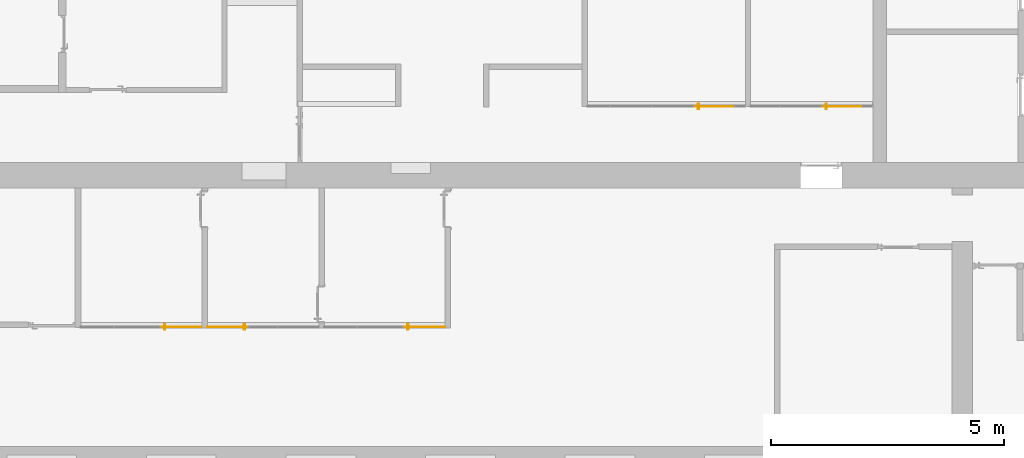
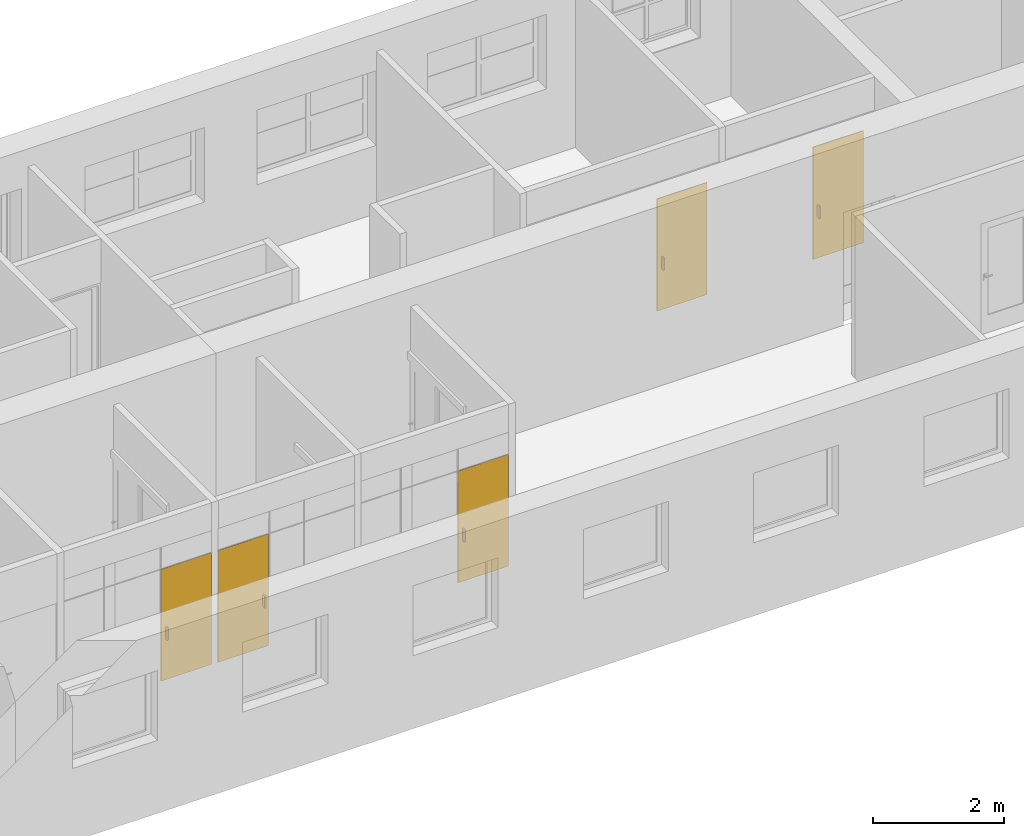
# One storey, part 43 of 49: 5 doors, 5 elements without a shape of their own.
"""IFC2X3 building model written with IfcOpenShell, lengths in millimetres."""

from ifc_helpers import new_model, entity, si_unit, converted_unit, derived_unit, direction, frame, frame_2d, origin, origin_2d_with_axis, place, context, subcontext, project, spatial, rectangle, extrude, source, transform, mapped, material, material_list, type_object, type_shapes, element, aggregate, save


model = new_model("IFC2X3")

# Units and contexts
model_context = context("Model", 3, precision=0.01, world=origin(), true_north=direction((6.12303176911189e-17, 1.0)))
body_context = subcontext(model_context, "Body", "Model", "MODEL_VIEW")
ifc_project = project(units=[si_unit("LENGTHUNIT", "METRE", prefix="MILLI"), si_unit("AREAUNIT", "SQUARE_METRE"), si_unit("VOLUMEUNIT", "CUBIC_METRE"), converted_unit("PLANEANGLEUNIT", "DEGREE", entity("IfcRatioMeasure", 0.0174532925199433), si_unit("PLANEANGLEUNIT", "RADIAN"), dimensions=[0, 0, 0, 0, 0, 0, 0]), si_unit("MASSUNIT", "GRAM", prefix="KILO"), derived_unit("MASSDENSITYUNIT", [(si_unit("MASSUNIT", "GRAM", prefix="KILO"), 1), (si_unit("LENGTHUNIT", "METRE"), -3)]), si_unit("TIMEUNIT", "SECOND"), si_unit("FREQUENCYUNIT", "HERTZ"), si_unit("THERMODYNAMICTEMPERATUREUNIT", "DEGREE_CELSIUS"), derived_unit("THERMALTRANSMITTANCEUNIT", [(si_unit("MASSUNIT", "GRAM", prefix="KILO"), 1), (si_unit("THERMODYNAMICTEMPERATUREUNIT", "KELVIN"), -1), (si_unit("TIMEUNIT", "SECOND"), -3)]), derived_unit("VOLUMETRICFLOWRATEUNIT", [(si_unit("LENGTHUNIT", "METRE"), 3), (si_unit("TIMEUNIT", "SECOND"), -1)]), si_unit("ELECTRICCURRENTUNIT", "AMPERE"), si_unit("ELECTRICVOLTAGEUNIT", "VOLT"), si_unit("POWERUNIT", "WATT"), si_unit("FORCEUNIT", "NEWTON", prefix="KILO"), si_unit("ILLUMINANCEUNIT", "LUX"), si_unit("LUMINOUSFLUXUNIT", "LUMEN"), si_unit("LUMINOUSINTENSITYUNIT", "CANDELA"), derived_unit("USERDEFINED", [(si_unit("MASSUNIT", "GRAM", prefix="KILO"), -1), (si_unit("LENGTHUNIT", "METRE"), -2), (si_unit("TIMEUNIT", "SECOND"), 3), (si_unit("LUMINOUSFLUXUNIT", "LUMEN"), 1)]), derived_unit("LINEARVELOCITYUNIT", [(si_unit("LENGTHUNIT", "METRE"), 1), (si_unit("TIMEUNIT", "SECOND"), -1)]), si_unit("PRESSUREUNIT", "PASCAL"), derived_unit("USERDEFINED", [(si_unit("LENGTHUNIT", "METRE"), -2), (si_unit("MASSUNIT", "GRAM", prefix="KILO"), 1), (si_unit("TIMEUNIT", "SECOND"), -2)])], contexts=[model_context])

# Site, building, storey
site_placement = place(None, frame((-151.875543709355, 2715.0, 0.0)))
site = spatial("IfcSite", under=ifc_project, at=site_placement, Name="Surface", CompositionType="ELEMENT")
building_placement = place(site_placement, origin())
building = spatial("IfcBuilding", under=site, at=building_placement, CompositionType="ELEMENT")
storey_placement = place(building_placement, origin())
storey = spatial("IfcBuildingStorey", under=building, at=storey_placement, Name="1 korrus", CompositionType="ELEMENT", Elevation=3.0969999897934e-10)

# Curtain wall, door
curtain_wall_type_1 = type_object("IfcCurtainWallType", Name="Curtain Wall:Klaassein KLS-01", PredefinedType="NOTDEFINED")
curtain_wall_1_placement = place(storey_placement, origin())
curtain_wall_1 = element("IfcCurtainWall", 1, at=curtain_wall_1_placement, inside=storey, type_object=curtain_wall_type_1, Name="Curtain Wall:Klaassein KLS-01", ObjectType="Curtain Wall:Klaassein KLS-01")
ifc_material_1 = material(Name="__Uks_hele tamm")
ifc_material_2 = material(Name="Aluminum")
ifc_material_list_1 = material_list([ifc_material_1, ifc_material_2])
ifc_material_list_2 = material_list([ifc_material_1, ifc_material_2])
door_style_1 = type_object("IfcDoorStyle", Name="Manteluks", ConstructionType="NOTDEFINED", OperationType="NOTDEFINED", ParameterTakesPrecedence=False, Sizeable=False, material=ifc_material_list_2)
shared_shape_1 = source(origin(), body_context, "Body", "SweptSolid", [
    extrude(rectangle(XDim=12.7000000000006, YDim=888.0, at=origin_2d_with_axis()), frame((0.0, 6.34999999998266, 0.0), z_axis=(0.0, 0.0, 1.0), x_axis=(0.0, 1.0, 0.0)), (0.0, 0.0, 1.0), 2080.0),
    extrude(rectangle(XDim=25.3999999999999, YDim=50.8, at=frame_2d((0.0, -3.5527136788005e-15), x_axis=(1.0, 0.0))), frame((-355.099999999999, 38.099999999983, 762.0), z_axis=(0.0, 0.0, 1.0), x_axis=(-1.0, 0.0, 0.0)), (0.0, 0.0, 1.0), 228.6),
    extrude(rectangle(XDim=25.3999999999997, YDim=50.8, at=frame_2d((3.37507799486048e-14, -1.77635683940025e-15), x_axis=(1.0, 0.0))), frame((-355.1, -25.4000000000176, 762.0)), (0.0, 0.0, 1.0), 228.6),
])
type_shapes(door_style_1, [shared_shape_1])
door_1_placement = place(curtain_wall_1_placement, frame((19209.2710850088, 3017.49999999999, 0.0)))
door_1 = element("IfcDoor", 2, at=door_1_placement, type_object=door_style_1, material=ifc_material_list_1, Name="Door-Curtain-Wall-Single-Glass:Manteluks", ObjectType="Manteluks", OverallHeight=2080.0, OverallWidth=888.000000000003, context=body_context, shape_type="MappedRepresentation", body=[
    mapped(shared_shape_1, transform((0.0, 0.0, 0.0), scale=1.0)),
])
aggregate(curtain_wall_1, [door_1])

curtain_wall_2_placement = place(storey_placement, origin())
curtain_wall_2 = element("IfcCurtainWall", 3, at=curtain_wall_2_placement, inside=storey, type_object=curtain_wall_type_1, Name="Curtain Wall:Klaassein KLS-01", ObjectType="Curtain Wall:Klaassein KLS-01")
ifc_material_list_3 = material_list([ifc_material_1, ifc_material_2])
door_2_placement = place(curtain_wall_2_placement, frame((13978.2710850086, 3017.50000000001, 0.0)))
door_2 = element("IfcDoor", 4, at=door_2_placement, type_object=door_style_1, material=ifc_material_list_3, Name="Door-Curtain-Wall-Single-Glass:Manteluks", ObjectType="Manteluks", OverallHeight=2080.0, OverallWidth=888.000000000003, context=body_context, shape_type="MappedRepresentation", body=[
    mapped(shared_shape_1, transform((0.0, 0.0, 0.0), scale=1.0)),
])
aggregate(curtain_wall_2, [door_2])

curtain_wall_type_2 = type_object("IfcCurtainWallType", Name="Curtain Wall:Klaassein KLS-02", PredefinedType="NOTDEFINED")
curtain_wall_3_placement = place(storey_placement, origin())
curtain_wall_3 = element("IfcCurtainWall", 5, at=curtain_wall_3_placement, inside=storey, type_object=curtain_wall_type_2, Name="Curtain Wall:Klaassein KLS-02", ObjectType="Curtain Wall:Klaassein KLS-02")
ifc_material_list_4 = material_list([ifc_material_1, ifc_material_2])
ifc_material_list_5 = material_list([ifc_material_1, ifc_material_2])
door_style_2 = type_object("IfcDoorStyle", Name="Manteluks", ConstructionType="NOTDEFINED", OperationType="NOTDEFINED", ParameterTakesPrecedence=False, Sizeable=False, material=ifc_material_list_5)
shared_shape_2 = source(origin(), body_context, "Body", "SweptSolid", [
    extrude(rectangle(XDim=891.9999996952, YDim=12.7000000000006, at=origin_2d_with_axis()), frame((0.0, -6.34999999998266, 0.0), z_axis=(0.0, 0.0, 1.0), x_axis=(-1.0, 0.0, 0.0)), (0.0, 0.0, 1.0), 2080.0),
    extrude(rectangle(XDim=50.8, YDim=25.3999999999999, at=origin_2d_with_axis()), frame((-357.099999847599, -38.099999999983, 762.0), z_axis=(0.0, 0.0, 1.0), x_axis=(0.0, 1.0, 0.0)), (0.0, 0.0, 1.0), 228.6),
    extrude(rectangle(XDim=50.8, YDim=25.3999999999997, at=frame_2d((0.0, 3.37507799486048e-14), x_axis=(1.0, 0.0))), frame((-357.0999998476, 25.4000000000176, 762.0), z_axis=(0.0, 0.0, 1.0), x_axis=(0.0, -1.0, 0.0)), (0.0, 0.0, 1.0), 228.6),
])
type_shapes(door_style_2, [shared_shape_2])
door_3_placement = place(curtain_wall_3_placement, frame((14982.2710848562, 3017.50000000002, 0.0), z_axis=(0.0, 0.0, 1.0), x_axis=(-1.0, 0.0, 0.0)))
door_3 = element("IfcDoor", 6, at=door_3_placement, type_object=door_style_2, material=ifc_material_list_4, Name="Door-Curtain-Wall-Single-Glass:Manteluks", ObjectType="Manteluks", OverallHeight=2080.0, OverallWidth=891.999999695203, context=body_context, shape_type="MappedRepresentation", body=[
    mapped(shared_shape_2, transform((0.0, 0.0, 0.0), scale=1.0)),
])
aggregate(curtain_wall_3, [door_3])

curtain_wall_type_3 = type_object("IfcCurtainWallType", Name="Curtain Wall:Klaassein KLS-04", PredefinedType="NOTDEFINED")
curtain_wall_4_placement = place(storey_placement, origin())
curtain_wall_4 = element("IfcCurtainWall", 7, at=curtain_wall_4_placement, inside=storey, type_object=curtain_wall_type_3, Name="Curtain Wall:Klaassein KLS-04", ObjectType="Curtain Wall:Klaassein KLS-04")
ifc_material_3 = material(Name="Glass")
ifc_material_list_6 = material_list([ifc_material_3, ifc_material_2])
ifc_material_list_7 = material_list([ifc_material_3, ifc_material_2])
door_style_3 = type_object("IfcDoorStyle", Name="Klaasuks", ConstructionType="NOTDEFINED", OperationType="NOTDEFINED", ParameterTakesPrecedence=False, Sizeable=False, material=ifc_material_list_7)
shared_shape_3 = source(origin(), body_context, "Body", "SweptSolid", [
    extrude(rectangle(XDim=889.999999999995, YDim=12.7000000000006, at=origin_2d_with_axis()), frame((0.0, -6.34999999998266, 0.0), z_axis=(0.0, 0.0, 1.0), x_axis=(-1.0, 0.0, 0.0)), (0.0, 0.0, 1.0), 2090.0),
    extrude(rectangle(XDim=50.8, YDim=25.3999999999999, at=origin_2d_with_axis()), frame((-356.099999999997, -38.099999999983, 762.0), z_axis=(0.0, 0.0, 1.0), x_axis=(0.0, 1.0, 0.0)), (0.0, 0.0, 1.0), 228.6),
    extrude(rectangle(XDim=50.8, YDim=25.3999999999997, at=frame_2d((0.0, 3.37507799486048e-14), x_axis=(1.0, 0.0))), frame((-356.099999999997, 25.4000000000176, 762.0), z_axis=(0.0, 0.0, 1.0), x_axis=(0.0, -1.0, 0.0)), (0.0, 0.0, 1.0), 228.6),
])
type_shapes(door_style_3, [shared_shape_3])
door_4_placement = place(curtain_wall_4_placement, frame((28200.0994792, 7770.0, 0.0)))
door_4 = element("IfcDoor", 8, at=door_4_placement, type_object=door_style_3, material=ifc_material_list_6, Name="Door-Curtain-Wall-Single-Glass:Klaasuks", ObjectType="Klaasuks", OverallHeight=2090.0, OverallWidth=889.999999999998, context=body_context, shape_type="MappedRepresentation", body=[
    mapped(shared_shape_3, transform((0.0, 0.0, 0.0), scale=1.0)),
])
aggregate(curtain_wall_4, [door_4])

curtain_wall_type_4 = type_object("IfcCurtainWallType", Name="Curtain Wall:Klaassein KLS-03", PredefinedType="NOTDEFINED")
curtain_wall_5_placement = place(storey_placement, origin())
curtain_wall_5 = element("IfcCurtainWall", 9, at=curtain_wall_5_placement, inside=storey, type_object=curtain_wall_type_4, Name="Curtain Wall:Klaassein KLS-03", ObjectType="Curtain Wall:Klaassein KLS-03")
ifc_material_list_8 = material_list([ifc_material_3, ifc_material_2])
ifc_material_list_9 = material_list([ifc_material_3, ifc_material_2])
door_style_4 = type_object("IfcDoorStyle", Name="Klaasuks", ConstructionType="NOTDEFINED", OperationType="NOTDEFINED", ParameterTakesPrecedence=False, Sizeable=False, material=ifc_material_list_9)
shared_shape_4 = source(origin(), body_context, "Body", "SweptSolid", [
    extrude(rectangle(XDim=879.999999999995, YDim=12.7000000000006, at=origin_2d_with_axis()), frame((0.0, -6.34999999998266, 0.0), z_axis=(0.0, 0.0, 1.0), x_axis=(-1.0, 0.0, 0.0)), (0.0, 0.0, 1.0), 2090.0),
    extrude(rectangle(XDim=50.8, YDim=25.3999999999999, at=origin_2d_with_axis()), frame((-351.099999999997, -38.099999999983, 762.0), z_axis=(0.0, 0.0, 1.0), x_axis=(0.0, 1.0, 0.0)), (0.0, 0.0, 1.0), 228.6),
    extrude(rectangle(XDim=50.8, YDim=25.3999999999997, at=frame_2d((0.0, 3.37507799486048e-14), x_axis=(1.0, 0.0))), frame((-351.099999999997, 25.4000000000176, 762.0), z_axis=(0.0, 0.0, 1.0), x_axis=(0.0, -1.0, 0.0)), (0.0, 0.0, 1.0), 228.6),
])
type_shapes(door_style_4, [shared_shape_4])
door_5_placement = place(curtain_wall_5_placement, frame((25451.2300720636, 7770.0, 0.0)))
door_5 = element("IfcDoor", 10, at=door_5_placement, type_object=door_style_4, material=ifc_material_list_8, Name="Door-Curtain-Wall-Single-Glass:Klaasuks", ObjectType="Klaasuks", OverallHeight=2090.0, OverallWidth=879.999999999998, context=body_context, shape_type="MappedRepresentation", body=[
    mapped(shared_shape_4, transform((0.0, 0.0, 0.0), scale=1.0)),
])
aggregate(curtain_wall_5, [door_5])

save(model, "model.ifc")
